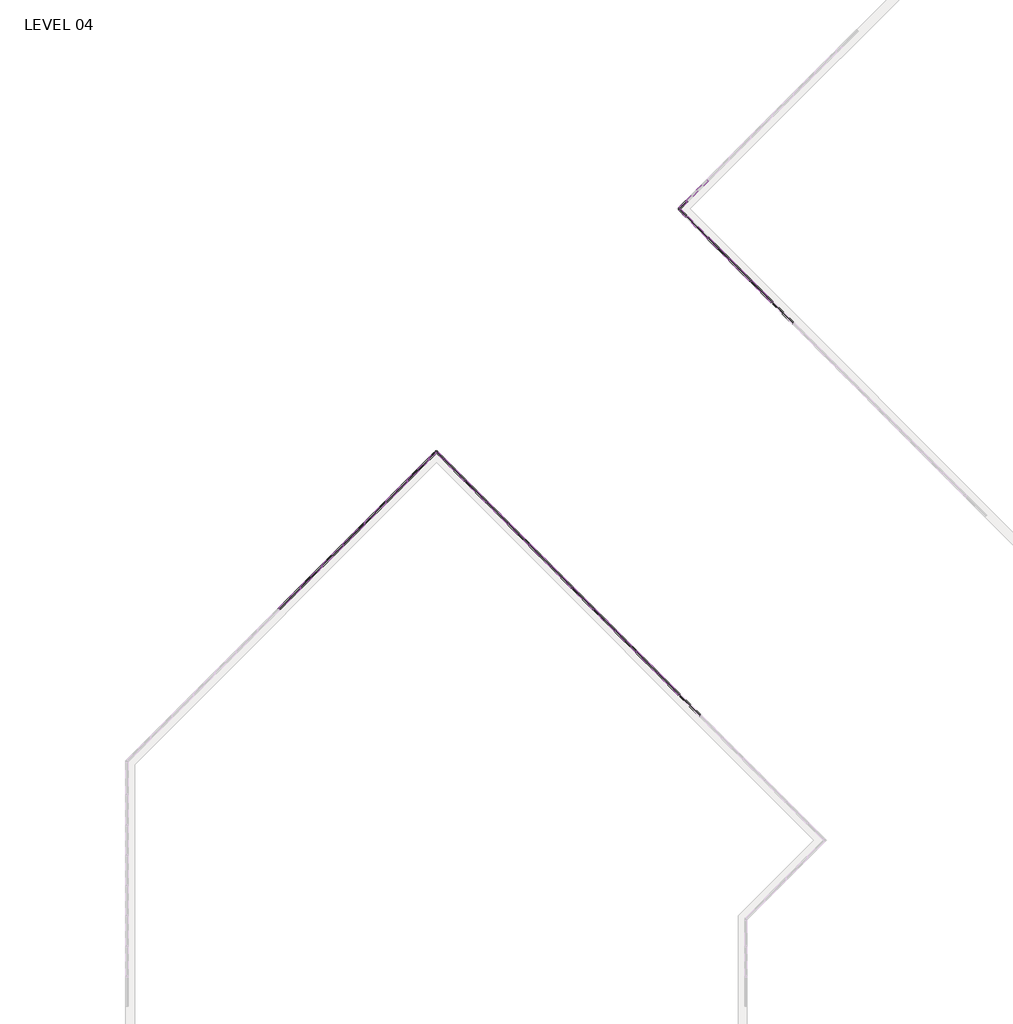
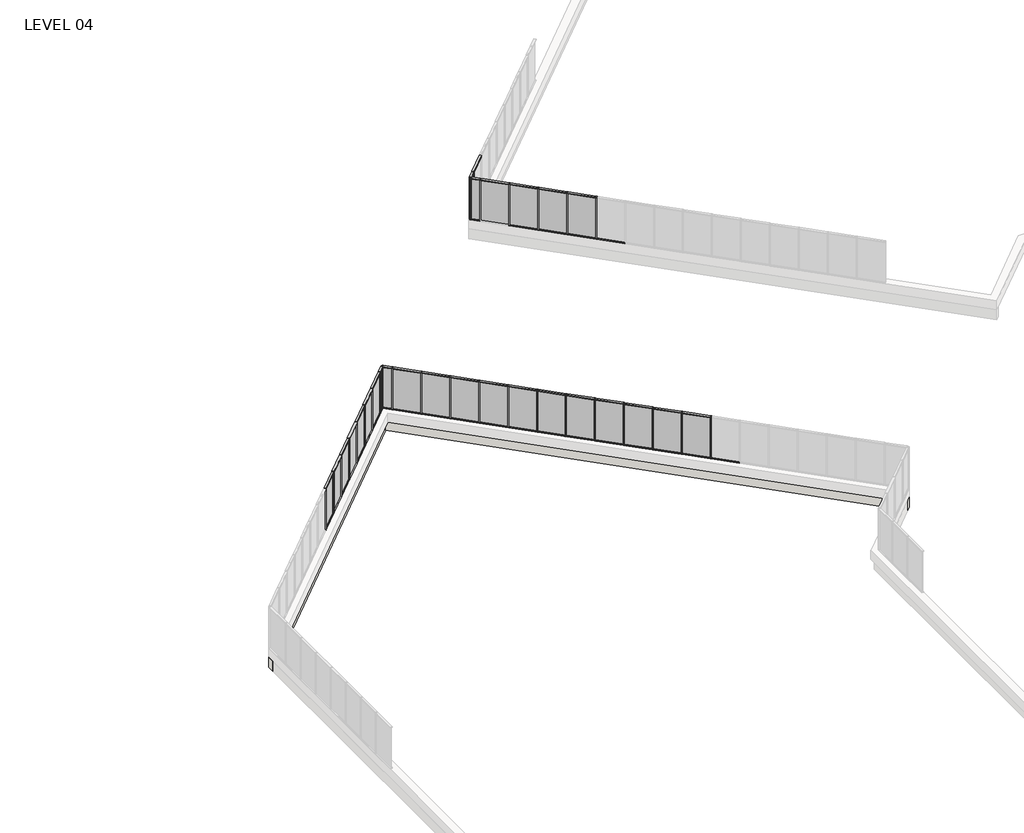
# One storey, part 6 of 17: 83 members, 26 plates, 2 walls.
"""IFC4 building model written with IfcOpenShell, lengths in millimetres."""

from ifc_helpers import new_model, si_unit, origin, place, context, project, spatial, faceted_brep, transform, mapped, element, save
from components import member_5247f267, member_e44af9ab, member_800970d4, member_ac5115e9, member_25b26a38, member_910c08c9, plate_67294edd, plate_c01932d8, plate_6d527a83, plate_88df3e37

model = new_model("IFC4")

# Units and contexts
model_context = context("Model", 3, world=origin())
ifc_project = project(units=[si_unit("LENGTHUNIT", "METRE", prefix="MILLI")], contexts=[model_context])

# Site, building, storey
site = spatial("IfcSite", under=ifc_project)
building = spatial("IfcBuilding", under=site)
storey = spatial("IfcBuildingStorey", under=building, Name="LEVEL 04", Elevation=12052.3)

# Members
placement = place(None, origin())
member_shape = member_5247f267(model_context)
element("IfcMember", 1, ObjectType="Rectangular Mullion : 2\" x 4.5\" rectangular", at=placement, inside=storey, context=model_context, shape_type="MappedRepresentation", body=[
    mapped(member_shape, transform((-3497.8097592, 103063.8559285, 12052.3), x_axis=(0.0, 0.0, -1.0), y_axis=(-0.7071067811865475, -0.7071067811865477, 0.0), z_axis=(-0.7071067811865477, 0.7071067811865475, 0.0))),
])
element("IfcMember", 2, ObjectType="Rectangular Mullion : 2\" x 4.5\" rectangular", at=placement, inside=storey, context=model_context, shape_type="MappedRepresentation", body=[
    mapped(member_shape, transform((-2420.1790246, 101986.2251939, 12052.3), x_axis=(0.0, 0.0, -1.0), y_axis=(-0.7071067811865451, -0.7071067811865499, 0.0), z_axis=(-0.7071067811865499, 0.7071067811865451, 0.0))),
])
element("IfcMember", 3, ObjectType="Rectangular Mullion : 2\" x 4.5\" rectangular", at=placement, inside=storey, context=model_context, shape_type="MappedRepresentation", body=[
    mapped(member_shape, transform((-1342.5482901, 100908.5944594, 12052.3), x_axis=(0.0, 0.0, -1.0), y_axis=(-0.7071067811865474, -0.7071067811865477, 0.0), z_axis=(-0.7071067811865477, 0.7071067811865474, 0.0))),
])
element("IfcMember", 4, ObjectType="Rectangular Mullion : 2\" x 4.5\" rectangular", at=placement, inside=storey, context=model_context, shape_type="MappedRepresentation", body=[
    mapped(member_shape, transform((-264.9175556, 99830.9637249, 12052.3), x_axis=(0.0, 0.0, -1.0), y_axis=(-0.7071067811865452, -0.7071067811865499, 0.0), z_axis=(-0.7071067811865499, 0.7071067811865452, 0.0))),
])
element("IfcMember", 5, ObjectType="Rectangular Mullion : 2\" x 4.5\" rectangular", at=placement, inside=storey, context=model_context, shape_type="MappedRepresentation", body=[
    mapped(member_shape, transform((-4575.6191663, 104942.0892742, 14643.1), x_axis=(0.0, 0.0, 1.0), y_axis=(-0.7071067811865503, 0.7071067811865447, 0.0), z_axis=(-0.7071067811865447, -0.7071067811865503, 0.0))),
])
element("IfcMember", 6, ObjectType="Rectangular Mullion : 2\" x 4.5\" rectangular", at=placement, inside=storey, context=model_context, shape_type="MappedRepresentation", body=[
    mapped(member_shape, transform((-3533.7307836, 103099.7769529, 14643.1), x_axis=(0.0, 0.0, 1.0), y_axis=(-0.7071067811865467, -0.7071067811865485, 0.0), z_axis=(0.7071067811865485, -0.7071067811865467, 0.0))),
])
element("IfcMember", 7, ObjectType="Rectangular Mullion : 2\" x 4.5\" rectangular", at=placement, inside=storey, context=model_context, shape_type="MappedRepresentation", body=[
    mapped(member_shape, transform((-2456.1000491, 102022.1462184, 14643.1), x_axis=(0.0, 0.0, 1.0), y_axis=(-0.7071067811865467, -0.7071067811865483, 0.0), z_axis=(0.7071067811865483, -0.7071067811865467, 0.0))),
])
element("IfcMember", 8, ObjectType="Rectangular Mullion : 2\" x 4.5\" rectangular", at=placement, inside=storey, context=model_context, shape_type="MappedRepresentation", body=[
    mapped(member_shape, transform((-1378.4693146, 100944.5154839, 14643.1), x_axis=(0.0, 0.0, 1.0), y_axis=(-0.707106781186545, -0.7071067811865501, 0.0), z_axis=(0.7071067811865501, -0.707106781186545, 0.0))),
])
element("IfcMember", 9, ObjectType="Rectangular Mullion : 2\" x 4.5\" rectangular", at=placement, inside=storey, context=model_context, shape_type="MappedRepresentation", body=[
    mapped(member_shape, transform((-300.8385801, 99866.8847494, 14643.1), x_axis=(0.0, 0.0, 1.0), y_axis=(-0.7071067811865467, -0.7071067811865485, 0.0), z_axis=(0.7071067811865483, -0.7071067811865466, 0.0))),
])
member_2_shape = member_e44af9ab(model_context)
element("IfcMember", 10, ObjectType="Rectangular Mullion : 2\" x 4.5\" rectangular", at=placement, inside=storey, context=model_context, shape_type="MappedRepresentation", body=[
    mapped(member_2_shape, transform((-4593.5796786, 104924.128762, 12052.3), x_axis=(-0.7071067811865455, -0.7071067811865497, 0.0), y_axis=(-0.7071067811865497, 0.7071067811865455, 0.0), z_axis=(0.0, 0.0, -1.0))),
])
element("IfcMember", 11, ObjectType="Rectangular Mullion : 2\" x 4.5\" rectangular", at=placement, inside=storey, context=model_context, shape_type="MappedRepresentation", body=[
    mapped(member_2_shape, transform((-3515.7702714, 103081.8164407, 12052.3), x_axis=(0.7071067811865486, -0.7071067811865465, 0.0), y_axis=(-0.7071067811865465, -0.7071067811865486, 0.0), z_axis=(0.0, 0.0, -1.0))),
])
element("IfcMember", 12, ObjectType="Rectangular Mullion : 2\" x 4.5\" rectangular", at=placement, inside=storey, context=model_context, shape_type="MappedRepresentation", body=[
    mapped(member_2_shape, transform((-2438.1395369, 102004.1857062, 12052.3), x_axis=(0.7071067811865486, -0.7071067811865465, 0.0), y_axis=(-0.7071067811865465, -0.7071067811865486, 0.0), z_axis=(0.0, 0.0, -1.0))),
])
element("IfcMember", 13, ObjectType="Rectangular Mullion : 2\" x 4.5\" rectangular", at=placement, inside=storey, context=model_context, shape_type="MappedRepresentation", body=[
    mapped(member_2_shape, transform((-1360.5088023, 100926.5549716, 12052.3), x_axis=(0.7071067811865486, -0.7071067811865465, 0.0), y_axis=(-0.7071067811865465, -0.7071067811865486, 0.0), z_axis=(0.0, 0.0, -1.0))),
])
element("IfcMember", 14, ObjectType="Rectangular Mullion : 2\" x 4.5\" rectangular", at=placement, inside=storey, context=model_context, shape_type="MappedRepresentation", body=[
    mapped(member_2_shape, transform((-282.8780678, 99848.9242371, 12052.3), x_axis=(0.7071067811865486, -0.7071067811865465, 0.0), y_axis=(-0.7071067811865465, -0.7071067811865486, 0.0), z_axis=(0.0, 0.0, -1.0))),
])
member_3_shape = member_800970d4(model_context)
element("IfcMember", 15, ObjectType="Rectangular Mullion : 2\" x 4.5\" rectangular", at=placement, inside=storey, context=model_context, shape_type="MappedRepresentation", body=[
    mapped(member_3_shape, transform((-4975.8311356, 104541.8773049, 12052.3), x_axis=(-0.7071067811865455, -0.7071067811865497, 0.0), y_axis=(-0.7071067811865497, 0.7071067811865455, 0.0), z_axis=(0.0, 0.0, -1.0))),
])
element("IfcMember", 16, ObjectType="Rectangular Mullion : 2\" x 4.5\" rectangular", at=placement, inside=storey, context=model_context, shape_type="MappedRepresentation", body=[
    mapped(member_3_shape, transform((-4975.8311356, 104541.8773049, 14643.1), x_axis=(-0.7071067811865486, 0.7071067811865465, 0.0), y_axis=(-0.7071067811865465, -0.7071067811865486, 0.0), z_axis=(0.0, 0.0, 1.0))),
])
member_4_shape = member_ac5115e9(model_context)
element("IfcMember", 17, ObjectType="Rectangular Mullion : 2\" x 4.5\" rectangular", at=placement, inside=storey, context=model_context, shape_type="MappedRepresentation", body=[
    mapped(member_4_shape, transform((-4939.9101111, 104577.7983294, 14643.1), x_axis=(0.0, 0.0, 1.0), y_axis=(-0.7071067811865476, 0.7071067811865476, 0.0), z_axis=(-0.7071067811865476, -0.7071067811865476, 0.0))),
])
element("IfcMember", 18, ObjectType="Rectangular Mullion : 2\" x 4.5\" rectangular", at=placement, inside=storey, context=model_context, shape_type="MappedRepresentation", body=[
    mapped(member_4_shape, transform((-4611.5401908, 104906.1682497, 12052.3), x_axis=(0.0, 0.0, -1.0), y_axis=(-0.7071067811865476, 0.7071067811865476, 0.0), z_axis=(0.7071067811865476, 0.7071067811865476, 0.0))),
])
member_5_shape = member_25b26a38(model_context)
element("IfcMember", 19, ObjectType="Rectangular Mullion : 2\" x 4.5\" rectangular", at=placement, inside=storey, context=model_context, shape_type="MappedRepresentation", body=[
    mapped(member_5_shape, transform((-4939.9101111, 104505.9562804, 12052.3), x_axis=(0.0, 0.0, -1.0), y_axis=(-0.7071067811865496, -0.7071067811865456, 0.0), z_axis=(-0.7071067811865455, 0.7071067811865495, 0.0))),
])
element("IfcMember", 20, ObjectType="Rectangular Mullion : 2\" x 4.5\" rectangular", at=placement, inside=storey, context=model_context, shape_type="MappedRepresentation", body=[
    mapped(member_5_shape, transform((-4611.3615182, 104177.4076875, 14643.1), x_axis=(0.0, 0.0, 1.0), y_axis=(-0.707106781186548, -0.707106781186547, 0.0), z_axis=(0.707106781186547, -0.707106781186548, 0.0))),
])
element("IfcMember", 21, ObjectType="Rectangular Mullion : 2\" x 4.5\" rectangular", at=placement, inside=storey, context=model_context, shape_type="MappedRepresentation", body=[
    mapped(member_shape, transform((-24063.9560929, 85453.7523477, 14643.1), x_axis=(0.0, 0.0, 1.0), y_axis=(0.707106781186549, -0.7071067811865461, 0.0), z_axis=(0.7071067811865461, 0.707106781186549, 0.0))),
])
element("IfcMember", 22, ObjectType="Rectangular Mullion : 2\" x 4.5\" rectangular", at=placement, inside=storey, context=model_context, shape_type="MappedRepresentation", body=[
    mapped(member_shape, transform((-18675.8024202, 90841.9060203, 14643.1), x_axis=(0.0, 0.0, 1.0), y_axis=(0.707106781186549, -0.7071067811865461, 0.0), z_axis=(0.7071067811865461, 0.707106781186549, 0.0))),
])
element("IfcMember", 23, ObjectType="Rectangular Mullion : 2\" x 4.5\" rectangular", at=placement, inside=storey, context=model_context, shape_type="MappedRepresentation", body=[
    mapped(member_shape, transform((-21908.6946238, 87609.0138167, 14643.1), x_axis=(0.0, 0.0, 1.0), y_axis=(0.707106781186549, -0.7071067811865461, 0.0), z_axis=(0.7071067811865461, 0.707106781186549, 0.0))),
])
element("IfcMember", 24, ObjectType="Rectangular Mullion : 2\" x 4.5\" rectangular", at=placement, inside=storey, context=model_context, shape_type="MappedRepresentation", body=[
    mapped(member_shape, transform((-22986.3253583, 86531.3830822, 14643.1), x_axis=(0.0, 0.0, 1.0), y_axis=(0.7071067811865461, -0.707106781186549, 0.0), z_axis=(0.707106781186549, 0.7071067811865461, 0.0))),
])
element("IfcMember", 25, ObjectType="Rectangular Mullion : 2\" x 4.5\" rectangular", at=placement, inside=storey, context=model_context, shape_type="MappedRepresentation", body=[
    mapped(member_shape, transform((-20831.0638893, 88686.6445513, 14643.1), x_axis=(0.0, 0.0, 1.0), y_axis=(0.7071067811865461, -0.707106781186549, 0.0), z_axis=(0.707106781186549, 0.7071067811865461, 0.0))),
])
element("IfcMember", 26, ObjectType="Rectangular Mullion : 2\" x 4.5\" rectangular", at=placement, inside=storey, context=model_context, shape_type="MappedRepresentation", body=[
    mapped(member_shape, transform((-19753.4331548, 89764.2752858, 14643.1), x_axis=(0.0, 0.0, 1.0), y_axis=(0.7071067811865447, -0.7071067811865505, 0.0), z_axis=(0.7071067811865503, 0.7071067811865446, 0.0))),
])
element("IfcMember", 27, ObjectType="Rectangular Mullion : 2\" x 4.5\" rectangular", at=placement, inside=storey, context=model_context, shape_type="MappedRepresentation", body=[
    mapped(member_shape, transform((-17598.1716857, 91919.5367548, 14643.1), x_axis=(0.0, 0.0, 1.0), y_axis=(0.7071067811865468, -0.7071067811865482, 0.0), z_axis=(0.7071067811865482, 0.7071067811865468, 0.0))),
])
element("IfcMember", 28, ObjectType="Rectangular Mullion : 2\" x 4.5\" rectangular", at=placement, inside=storey, context=model_context, shape_type="MappedRepresentation", body=[
    mapped(member_shape, transform((-15755.8593644, 90877.6483722, 14643.1), x_axis=(0.0, 0.0, 1.0), y_axis=(-0.7071067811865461, -0.707106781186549, 0.0), z_axis=(0.707106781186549, -0.7071067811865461, 0.0))),
])
element("IfcMember", 29, ObjectType="Rectangular Mullion : 2\" x 4.5\" rectangular", at=placement, inside=storey, context=model_context, shape_type="MappedRepresentation", body=[
    mapped(member_shape, transform((-14678.2286299, 89800.0176376, 14643.1), x_axis=(0.0, 0.0, 1.0), y_axis=(-0.7071067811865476, -0.7071067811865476, 0.0), z_axis=(0.7071067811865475, -0.7071067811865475, 0.0))),
])
element("IfcMember", 30, ObjectType="Rectangular Mullion : 2\" x 4.5\" rectangular", at=placement, inside=storey, context=model_context, shape_type="MappedRepresentation", body=[
    mapped(member_shape, transform((-13600.5978954, 88722.3869031, 14643.1), x_axis=(0.0, 0.0, 1.0), y_axis=(-0.7071067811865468, -0.7071067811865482, 0.0), z_axis=(0.7071067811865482, -0.7071067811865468, 0.0))),
])
element("IfcMember", 31, ObjectType="Rectangular Mullion : 2\" x 4.5\" rectangular", at=placement, inside=storey, context=model_context, shape_type="MappedRepresentation", body=[
    mapped(member_shape, transform((-11445.3364263, 86567.125434, 14643.1), x_axis=(0.0, 0.0, 1.0), y_axis=(-0.7071067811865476, -0.7071067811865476, 0.0), z_axis=(0.7071067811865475, -0.7071067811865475, 0.0))),
])
element("IfcMember", 32, ObjectType="Rectangular Mullion : 2\" x 4.5\" rectangular", at=placement, inside=storey, context=model_context, shape_type="MappedRepresentation", body=[
    mapped(member_shape, transform((-10367.7056918, 85489.4946995, 14643.1), x_axis=(0.0, 0.0, 1.0), y_axis=(-0.7071067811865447, -0.7071067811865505, 0.0), z_axis=(0.7071067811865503, -0.7071067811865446, 0.0))),
])
element("IfcMember", 33, ObjectType="Rectangular Mullion : 2\" x 4.5\" rectangular", at=placement, inside=storey, context=model_context, shape_type="MappedRepresentation", body=[
    mapped(member_shape, transform((-9290.0749572, 84411.863965, 14643.1), x_axis=(0.0, 0.0, 1.0), y_axis=(-0.7071067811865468, -0.7071067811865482, 0.0), z_axis=(0.7071067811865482, -0.7071067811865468, 0.0))),
])
element("IfcMember", 34, ObjectType="Rectangular Mullion : 2\" x 4.5\" rectangular", at=placement, inside=storey, context=model_context, shape_type="MappedRepresentation", body=[
    mapped(member_shape, transform((-8212.4442227, 83334.2332305, 14643.1), x_axis=(0.0, 0.0, 1.0), y_axis=(-0.7071067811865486, -0.7071067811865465, 0.0), z_axis=(0.7071067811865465, -0.7071067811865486, 0.0))),
])
element("IfcMember", 35, ObjectType="Rectangular Mullion : 2\" x 4.5\" rectangular", at=placement, inside=storey, context=model_context, shape_type="MappedRepresentation", body=[
    mapped(member_shape, transform((-4979.9093644, 80101.6983722, 14643.1), x_axis=(0.0, 0.0, 1.0), y_axis=(-0.7071067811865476, -0.7071067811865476, 0.0), z_axis=(0.7071067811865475, -0.7071067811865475, 0.0))),
])
element("IfcMember", 36, ObjectType="Rectangular Mullion : 2\" x 4.5\" rectangular", at=placement, inside=storey, context=model_context, shape_type="MappedRepresentation", body=[
    mapped(member_shape, transform((-12522.9671608, 87644.7561686, 14643.1), x_axis=(0.0, 0.0, 1.0), y_axis=(-0.7071067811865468, -0.7071067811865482, 0.0), z_axis=(0.7071067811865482, -0.7071067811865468, 0.0))),
])
element("IfcMember", 37, ObjectType="Rectangular Mullion : 2\" x 4.5\" rectangular", at=placement, inside=storey, context=model_context, shape_type="MappedRepresentation", body=[
    mapped(member_shape, transform((-25105.6658029, 84412.0426376, 12052.3), x_axis=(0.0, 0.0, -1.0), y_axis=(0.707106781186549, -0.7071067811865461, 0.0), z_axis=(-0.7071067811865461, -0.707106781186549, 0.0))),
])
element("IfcMember", 38, ObjectType="Rectangular Mullion : 2\" x 4.5\" rectangular", at=placement, inside=storey, context=model_context, shape_type="MappedRepresentation", body=[
    mapped(member_shape, transform((-24028.0350684, 85489.6733722, 12052.3), x_axis=(0.0, 0.0, -1.0), y_axis=(0.7071067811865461, -0.707106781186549, 0.0), z_axis=(-0.707106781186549, -0.7071067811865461, 0.0))),
])
element("IfcMember", 39, ObjectType="Rectangular Mullion : 2\" x 4.5\" rectangular", at=placement, inside=storey, context=model_context, shape_type="MappedRepresentation", body=[
    mapped(member_shape, transform((-18639.8813957, 90877.8270448, 12052.3), x_axis=(0.0, 0.0, -1.0), y_axis=(0.7071067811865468, -0.7071067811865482, 0.0), z_axis=(-0.7071067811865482, -0.7071067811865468, 0.0))),
])
element("IfcMember", 40, ObjectType="Rectangular Mullion : 2\" x 4.5\" rectangular", at=placement, inside=storey, context=model_context, shape_type="MappedRepresentation", body=[
    mapped(member_shape, transform((-21872.7735993, 87644.9348412, 12052.3), x_axis=(0.0, 0.0, -1.0), y_axis=(0.7071067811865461, -0.707106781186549, 0.0), z_axis=(-0.707106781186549, -0.7071067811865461, 0.0))),
])
element("IfcMember", 41, ObjectType="Rectangular Mullion : 2\" x 4.5\" rectangular", at=placement, inside=storey, context=model_context, shape_type="MappedRepresentation", body=[
    mapped(member_shape, transform((-22950.4043339, 86567.3041067, 12052.3), x_axis=(0.0, 0.0, -1.0), y_axis=(0.707106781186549, -0.7071067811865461, 0.0), z_axis=(-0.7071067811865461, -0.707106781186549, 0.0))),
])
element("IfcMember", 42, ObjectType="Rectangular Mullion : 2\" x 4.5\" rectangular", at=placement, inside=storey, context=model_context, shape_type="MappedRepresentation", body=[
    mapped(member_shape, transform((-20795.1428648, 88722.5655757, 12052.3), x_axis=(0.0, 0.0, -1.0), y_axis=(0.7071067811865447, -0.7071067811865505, 0.0), z_axis=(-0.7071067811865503, -0.7071067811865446, 0.0))),
])
element("IfcMember", 43, ObjectType="Rectangular Mullion : 2\" x 4.5\" rectangular", at=placement, inside=storey, context=model_context, shape_type="MappedRepresentation", body=[
    mapped(member_shape, transform((-19717.5121303, 89800.1963103, 12052.3), x_axis=(0.0, 0.0, -1.0), y_axis=(0.707106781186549, -0.7071067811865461, 0.0), z_axis=(-0.7071067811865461, -0.707106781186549, 0.0))),
])
element("IfcMember", 44, ObjectType="Rectangular Mullion : 2\" x 4.5\" rectangular", at=placement, inside=storey, context=model_context, shape_type="MappedRepresentation", body=[
    mapped(member_shape, transform((-15719.9383399, 90841.7273477, 12052.3), x_axis=(0.0, 0.0, -1.0), y_axis=(-0.7071067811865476, -0.7071067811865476, 0.0), z_axis=(-0.7071067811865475, 0.7071067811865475, 0.0))),
])
element("IfcMember", 45, ObjectType="Rectangular Mullion : 2\" x 4.5\" rectangular", at=placement, inside=storey, context=model_context, shape_type="MappedRepresentation", body=[
    mapped(member_shape, transform((-14642.3076054, 89764.0966131, 12052.3), x_axis=(0.0, 0.0, -1.0), y_axis=(-0.707106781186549, -0.7071067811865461, 0.0), z_axis=(-0.7071067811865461, 0.707106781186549, 0.0))),
])
element("IfcMember", 46, ObjectType="Rectangular Mullion : 2\" x 4.5\" rectangular", at=placement, inside=storey, context=model_context, shape_type="MappedRepresentation", body=[
    mapped(member_shape, transform((-13564.6768709, 88686.4658786, 12052.3), x_axis=(0.0, 0.0, -1.0), y_axis=(-0.7071067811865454, -0.7071067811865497, 0.0), z_axis=(-0.7071067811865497, 0.7071067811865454, 0.0))),
])
element("IfcMember", 47, ObjectType="Rectangular Mullion : 2\" x 4.5\" rectangular", at=placement, inside=storey, context=model_context, shape_type="MappedRepresentation", body=[
    mapped(member_shape, transform((-11409.4154018, 86531.2044096, 12052.3), x_axis=(0.0, 0.0, -1.0), y_axis=(-0.7071067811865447, -0.7071067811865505, 0.0), z_axis=(-0.7071067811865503, 0.7071067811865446, 0.0))),
])
element("IfcMember", 48, ObjectType="Rectangular Mullion : 2\" x 4.5\" rectangular", at=placement, inside=storey, context=model_context, shape_type="MappedRepresentation", body=[
    mapped(member_shape, transform((-10331.7846673, 85453.573675, 12052.3), x_axis=(0.0, 0.0, -1.0), y_axis=(-0.7071067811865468, -0.7071067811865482, 0.0), z_axis=(-0.7071067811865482, 0.7071067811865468, 0.0))),
])
element("IfcMember", 49, ObjectType="Rectangular Mullion : 2\" x 4.5\" rectangular", at=placement, inside=storey, context=model_context, shape_type="MappedRepresentation", body=[
    mapped(member_shape, transform((-9254.1539328, 84375.9429405, 12052.3), x_axis=(0.0, 0.0, -1.0), y_axis=(-0.7071067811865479, -0.7071067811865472, 0.0), z_axis=(-0.7071067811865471, 0.7071067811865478, 0.0))),
])
element("IfcMember", 50, ObjectType="Rectangular Mullion : 2\" x 4.5\" rectangular", at=placement, inside=storey, context=model_context, shape_type="MappedRepresentation", body=[
    mapped(member_shape, transform((-6021.6190745, 81143.4080822, 12052.3), x_axis=(0.0, 0.0, -1.0), y_axis=(-0.7071067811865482, -0.7071067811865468, 0.0), z_axis=(-0.7071067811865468, 0.7071067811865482, 0.0))),
])
element("IfcMember", 51, ObjectType="Rectangular Mullion : 2\" x 4.5\" rectangular", at=placement, inside=storey, context=model_context, shape_type="MappedRepresentation", body=[
    mapped(member_shape, transform((-4943.9883399, 80065.7773477, 12052.3), x_axis=(0.0, 0.0, -1.0), y_axis=(-0.7071067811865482, -0.7071067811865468, 0.0), z_axis=(-0.7071067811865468, 0.7071067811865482, 0.0))),
])
element("IfcMember", 52, ObjectType="Rectangular Mullion : 2\" x 4.5\" rectangular", at=placement, inside=storey, context=model_context, shape_type="MappedRepresentation", body=[
    mapped(member_shape, transform((-12487.0461363, 87608.8351441, 12052.3), x_axis=(0.0, 0.0, -1.0), y_axis=(-0.7071067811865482, -0.7071067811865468, 0.0), z_axis=(-0.7071067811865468, 0.7071067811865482, 0.0))),
])
element("IfcMember", 53, ObjectType="Rectangular Mullion : 2\" x 4.5\" rectangular", at=placement, inside=storey, context=model_context, shape_type="MappedRepresentation", body=[
    mapped(member_shape, transform((-16797.5690745, 91919.3580822, 12052.3), x_axis=(0.0, 0.0, -1.0), y_axis=(-0.7071067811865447, -0.7071067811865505, 0.0), z_axis=(-0.7071067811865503, 0.7071067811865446, 0.0))),
])
element("IfcMember", 54, ObjectType="Rectangular Mullion : 2\" x 4.5\" rectangular", at=placement, inside=storey, context=model_context, shape_type="MappedRepresentation", body=[
    mapped(member_2_shape, transform((-25123.6263152, 84394.0821254, 12052.3), x_axis=(0.7071067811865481, 0.7071067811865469, 0.0), y_axis=(0.7071067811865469, -0.7071067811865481, 0.0), z_axis=(0.0, 0.0, -1.0))),
])
element("IfcMember", 55, ObjectType="Rectangular Mullion : 2\" x 4.5\" rectangular", at=placement, inside=storey, context=model_context, shape_type="MappedRepresentation", body=[
    mapped(member_2_shape, transform((-24045.9955806, 85471.7128599, 12052.3), x_axis=(0.7071067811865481, 0.7071067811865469, 0.0), y_axis=(0.7071067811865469, -0.7071067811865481, 0.0), z_axis=(0.0, 0.0, -1.0))),
])
element("IfcMember", 56, ObjectType="Rectangular Mullion : 2\" x 4.5\" rectangular", at=placement, inside=storey, context=model_context, shape_type="MappedRepresentation", body=[
    mapped(member_2_shape, transform((-18657.841908, 90859.8665326, 12052.3), x_axis=(0.7071067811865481, 0.7071067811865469, 0.0), y_axis=(0.7071067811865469, -0.7071067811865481, 0.0), z_axis=(0.0, 0.0, -1.0))),
])
element("IfcMember", 57, ObjectType="Rectangular Mullion : 2\" x 4.5\" rectangular", at=placement, inside=storey, context=model_context, shape_type="MappedRepresentation", body=[
    mapped(member_2_shape, transform((-21890.7341116, 87626.974329, 12052.3), x_axis=(0.7071067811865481, 0.7071067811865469, 0.0), y_axis=(0.7071067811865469, -0.7071067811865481, 0.0), z_axis=(0.0, 0.0, -1.0))),
])
element("IfcMember", 58, ObjectType="Rectangular Mullion : 2\" x 4.5\" rectangular", at=placement, inside=storey, context=model_context, shape_type="MappedRepresentation", body=[
    mapped(member_2_shape, transform((-22968.3648461, 86549.3435944, 12052.3), x_axis=(0.7071067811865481, 0.7071067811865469, 0.0), y_axis=(0.7071067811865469, -0.7071067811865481, 0.0), z_axis=(0.0, 0.0, -1.0))),
])
element("IfcMember", 59, ObjectType="Rectangular Mullion : 2\" x 4.5\" rectangular", at=placement, inside=storey, context=model_context, shape_type="MappedRepresentation", body=[
    mapped(member_2_shape, transform((-20813.103377, 88704.6050635, 12052.3), x_axis=(0.7071067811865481, 0.7071067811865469, 0.0), y_axis=(0.7071067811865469, -0.7071067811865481, 0.0), z_axis=(0.0, 0.0, -1.0))),
])
element("IfcMember", 60, ObjectType="Rectangular Mullion : 2\" x 4.5\" rectangular", at=placement, inside=storey, context=model_context, shape_type="MappedRepresentation", body=[
    mapped(member_2_shape, transform((-19735.4726425, 89782.235798, 12052.3), x_axis=(0.7071067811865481, 0.7071067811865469, 0.0), y_axis=(0.7071067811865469, -0.7071067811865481, 0.0), z_axis=(0.0, 0.0, -1.0))),
])
element("IfcMember", 61, ObjectType="Rectangular Mullion : 2\" x 4.5\" rectangular", at=placement, inside=storey, context=model_context, shape_type="MappedRepresentation", body=[
    mapped(member_2_shape, transform((-17580.2111735, 91937.4972671, 12052.3), x_axis=(0.7071067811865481, 0.7071067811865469, 0.0), y_axis=(0.7071067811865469, -0.7071067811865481, 0.0), z_axis=(0.0, 0.0, -1.0))),
])
element("IfcMember", 62, ObjectType="Rectangular Mullion : 2\" x 4.5\" rectangular", at=placement, inside=storey, context=model_context, shape_type="MappedRepresentation", body=[
    mapped(member_2_shape, transform((-15737.8988522, 90859.6878599, 12052.3), x_axis=(0.707106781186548, -0.7071067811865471, 0.0), y_axis=(-0.7071067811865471, -0.707106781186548, 0.0), z_axis=(0.0, 0.0, -1.0))),
])
element("IfcMember", 63, ObjectType="Rectangular Mullion : 2\" x 4.5\" rectangular", at=placement, inside=storey, context=model_context, shape_type="MappedRepresentation", body=[
    mapped(member_2_shape, transform((-14660.2681176, 89782.0571254, 12052.3), x_axis=(0.707106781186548, -0.7071067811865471, 0.0), y_axis=(-0.7071067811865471, -0.707106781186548, 0.0), z_axis=(0.0, 0.0, -1.0))),
])
element("IfcMember", 64, ObjectType="Rectangular Mullion : 2\" x 4.5\" rectangular", at=placement, inside=storey, context=model_context, shape_type="MappedRepresentation", body=[
    mapped(member_2_shape, transform((-13582.6373831, 88704.4263909, 12052.3), x_axis=(0.707106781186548, -0.7071067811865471, 0.0), y_axis=(-0.7071067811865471, -0.707106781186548, 0.0), z_axis=(0.0, 0.0, -1.0))),
])
element("IfcMember", 65, ObjectType="Rectangular Mullion : 2\" x 4.5\" rectangular", at=placement, inside=storey, context=model_context, shape_type="MappedRepresentation", body=[
    mapped(member_2_shape, transform((-11427.3759141, 86549.1649218, 12052.3), x_axis=(0.707106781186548, -0.7071067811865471, 0.0), y_axis=(-0.7071067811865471, -0.707106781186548, 0.0), z_axis=(0.0, 0.0, -1.0))),
])
element("IfcMember", 66, ObjectType="Rectangular Mullion : 2\" x 4.5\" rectangular", at=placement, inside=storey, context=model_context, shape_type="MappedRepresentation", body=[
    mapped(member_2_shape, transform((-10349.7451795, 85471.5341873, 12052.3), x_axis=(0.707106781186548, -0.7071067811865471, 0.0), y_axis=(-0.7071067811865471, -0.707106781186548, 0.0), z_axis=(0.0, 0.0, -1.0))),
])
element("IfcMember", 67, ObjectType="Rectangular Mullion : 2\" x 4.5\" rectangular", at=placement, inside=storey, context=model_context, shape_type="MappedRepresentation", body=[
    mapped(member_2_shape, transform((-9272.114445, 84393.9034527, 12052.3), x_axis=(0.707106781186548, -0.7071067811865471, 0.0), y_axis=(-0.7071067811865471, -0.707106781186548, 0.0), z_axis=(0.0, 0.0, -1.0))),
])
element("IfcMember", 68, ObjectType="Rectangular Mullion : 2\" x 4.5\" rectangular", at=placement, inside=storey, context=model_context, shape_type="MappedRepresentation", body=[
    mapped(member_2_shape, transform((-8194.4837105, 83316.2727182, 12052.3), x_axis=(0.707106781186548, -0.7071067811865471, 0.0), y_axis=(-0.7071067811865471, -0.707106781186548, 0.0), z_axis=(0.0, 0.0, -1.0))),
])
element("IfcMember", 69, ObjectType="Rectangular Mullion : 2\" x 4.5\" rectangular", at=placement, inside=storey, context=model_context, shape_type="MappedRepresentation", body=[
    mapped(member_2_shape, transform((-6039.5795867, 81161.3685944, 12052.3), x_axis=(0.707106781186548, -0.7071067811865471, 0.0), y_axis=(-0.7071067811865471, -0.707106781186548, 0.0), z_axis=(0.0, 0.0, -1.0))),
])
element("IfcMember", 70, ObjectType="Rectangular Mullion : 2\" x 4.5\" rectangular", at=placement, inside=storey, context=model_context, shape_type="MappedRepresentation", body=[
    mapped(member_2_shape, transform((-4961.9488522, 80083.7378599, 12052.3), x_axis=(0.707106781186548, -0.7071067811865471, 0.0), y_axis=(-0.7071067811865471, -0.707106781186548, 0.0), z_axis=(0.0, 0.0, -1.0))),
])
element("IfcMember", 71, ObjectType="Rectangular Mullion : 2\" x 4.5\" rectangular", at=placement, inside=storey, context=model_context, shape_type="MappedRepresentation", body=[
    mapped(member_2_shape, transform((-12505.0066486, 87626.7956563, 12052.3), x_axis=(0.707106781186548, -0.7071067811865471, 0.0), y_axis=(-0.7071067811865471, -0.707106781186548, 0.0), z_axis=(0.0, 0.0, -1.0))),
])
element("IfcMember", 72, ObjectType="Rectangular Mullion : 2\" x 4.5\" rectangular", at=placement, inside=storey, context=model_context, shape_type="MappedRepresentation", body=[
    mapped(member_2_shape, transform((-16815.5295867, 91937.3185944, 12052.3), x_axis=(0.707106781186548, -0.7071067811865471, 0.0), y_axis=(-0.7071067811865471, -0.707106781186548, 0.0), z_axis=(0.0, 0.0, -1.0))),
])
element("IfcMember", 73, ObjectType="Rectangular Mullion : 2\" x 4.5\" rectangular", at=placement, inside=storey, context=model_context, shape_type="MappedRepresentation", body=[
    mapped(member_2_shape, transform((-7117.0316486, 82238.8206563, 12052.3), x_axis=(0.707106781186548, -0.7071067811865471, 0.0), y_axis=(-0.7071067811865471, -0.707106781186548, 0.0), z_axis=(0.0, 0.0, -1.0))),
])
element("IfcMember", 74, ObjectType="Rectangular Mullion : 2\" x 4.5\" rectangular", at=placement, inside=storey, context=model_context, shape_type="MappedRepresentation", body=[
    mapped(member_3_shape, transform((-17197.9597164, 92319.7487241, 12052.3), x_axis=(0.7071067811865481, 0.7071067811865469, 0.0), y_axis=(0.7071067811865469, -0.7071067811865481, 0.0), z_axis=(0.0, 0.0, -1.0))),
])
element("IfcMember", 75, ObjectType="Rectangular Mullion : 2\" x 4.5\" rectangular", at=placement, inside=storey, context=model_context, shape_type="MappedRepresentation", body=[
    mapped(member_3_shape, transform((-17197.9597164, 92319.7487241, 14643.1), x_axis=(-0.707106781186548, 0.7071067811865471, 0.0), y_axis=(-0.7071067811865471, -0.707106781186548, 0.0), z_axis=(0.0, 0.0, 1.0))),
])
element("IfcMember", 76, ObjectType="Rectangular Mullion : 2\" x 4.5\" rectangular", at=placement, inside=storey, context=model_context, shape_type="MappedRepresentation", body=[
    mapped(member_5_shape, transform((-16833.4900989, 91955.2791067, 14643.1), x_axis=(0.0, 0.0, 1.0), y_axis=(-0.7071067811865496, -0.7071067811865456, 0.0), z_axis=(0.7071067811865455, -0.7071067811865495, 0.0))),
])
element("IfcMember", 77, ObjectType="Rectangular Mullion : 2\" x 4.5\" rectangular", at=placement, inside=storey, context=model_context, shape_type="MappedRepresentation", body=[
    mapped(member_5_shape, transform((-17162.0386919, 92283.8276997, 12052.3), x_axis=(0.0, 0.0, -1.0), y_axis=(-0.7071067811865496, -0.7071067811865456, 0.0), z_axis=(-0.7071067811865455, 0.7071067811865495, 0.0))),
])
element("IfcMember", 78, ObjectType="Rectangular Mullion : 2\" x 4.5\" rectangular", at=placement, inside=storey, context=model_context, shape_type="MappedRepresentation", body=[
    mapped(member_4_shape, transform((-17233.8807409, 92283.8276997, 14643.1), x_axis=(0.0, 0.0, 1.0), y_axis=(0.7071067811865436, -0.7071067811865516, 0.0), z_axis=(0.7071067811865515, 0.7071067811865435, 0.0))),
])
element("IfcMember", 79, ObjectType="Rectangular Mullion : 2\" x 4.5\" rectangular", at=placement, inside=storey, context=model_context, shape_type="MappedRepresentation", body=[
    mapped(member_4_shape, transform((-17562.2506612, 91955.4577793, 12052.3), x_axis=(0.0, 0.0, -1.0), y_axis=(0.7071067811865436, -0.7071067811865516, 0.0), z_axis=(-0.7071067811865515, -0.7071067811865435, 0.0))),
])
member_6_shape = member_910c08c9(model_context)
element("IfcMember", 80, ObjectType="Rectangular Mullion : 2\" x 4.5\" rectangular", at=placement, inside=storey, context=model_context, shape_type="MappedRepresentation", body=[
    mapped(member_6_shape, transform((-6057.5400989, 81179.3291067, 14643.1), x_axis=(0.0, 0.0, 1.0), y_axis=(-0.7071067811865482, -0.7071067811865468, 0.0), z_axis=(0.7071067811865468, -0.7071067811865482, 0.0))),
])
element("IfcMember", 81, ObjectType="Rectangular Mullion : 2\" x 4.5\" rectangular", at=placement, inside=storey, context=model_context, shape_type="MappedRepresentation", body=[
    mapped(member_6_shape, transform((-7134.9921608, 82256.7811686, 14643.1), x_axis=(0.0, 0.0, 1.0), y_axis=(-0.7071067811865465, -0.7071067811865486, 0.0), z_axis=(0.7071067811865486, -0.7071067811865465, 0.0))),
])
element("IfcMember", 82, ObjectType="Rectangular Mullion : 2\" x 4.5\" rectangular", at=placement, inside=storey, context=model_context, shape_type="MappedRepresentation", body=[
    mapped(member_6_shape, transform((-8176.5231982, 83298.312206, 12052.3), x_axis=(0.0, 0.0, -1.0), y_axis=(-0.7071067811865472, -0.7071067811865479, 0.0), z_axis=(-0.7071067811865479, 0.7071067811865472, 0.0))),
])
element("IfcMember", 83, ObjectType="Rectangular Mullion : 2\" x 4.5\" rectangular", at=placement, inside=storey, context=model_context, shape_type="MappedRepresentation", body=[
    mapped(member_6_shape, transform((-7099.0711363, 82220.8601441, 12052.3), x_axis=(0.0, 0.0, -1.0), y_axis=(-0.7071067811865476, -0.7071067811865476, 0.0), z_axis=(-0.7071067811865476, 0.7071067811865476, 0.0))),
])

# Plates
plate_shape = plate_67294edd(model_context)
element("IfcPlate", 84, ObjectType="System Panel : 1/4\" Glass", at=placement, inside=storey, context=model_context, shape_type="MappedRepresentation", body=[
    mapped(plate_shape, transform((-2976.9549041, 102543.0010734, 12103.1), x_axis=(0.7071067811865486, -0.7071067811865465, 0.0), y_axis=(0.7071067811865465, 0.7071067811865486, 0.0), z_axis=(0.0, 0.0, 1.0))),
])
element("IfcPlate", 85, ObjectType="System Panel : 1/4\" Glass", at=placement, inside=storey, context=model_context, shape_type="MappedRepresentation", body=[
    mapped(plate_shape, transform((-1899.3241696, 101465.3703389, 12103.1), x_axis=(0.7071067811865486, -0.7071067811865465, 0.0), y_axis=(0.7071067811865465, 0.7071067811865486, 0.0), z_axis=(0.0, 0.0, 1.0))),
])
element("IfcPlate", 86, ObjectType="System Panel : 1/4\" Glass", at=placement, inside=storey, context=model_context, shape_type="MappedRepresentation", body=[
    mapped(plate_shape, transform((-821.6934351, 100387.7396044, 12103.1), x_axis=(0.7071067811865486, -0.7071067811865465, 0.0), y_axis=(0.7071067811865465, 0.7071067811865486, 0.0), z_axis=(0.0, 0.0, 1.0))),
])
element("IfcPlate", 87, ObjectType="System Panel : 1/4\" Glass", at=placement, inside=storey, context=model_context, shape_type="MappedRepresentation", body=[
    mapped(plate_shape, transform((-4054.5856387, 103620.631808, 12103.1), x_axis=(0.7071067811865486, -0.7071067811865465, 0.0), y_axis=(0.7071067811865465, 0.7071067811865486, 0.0), z_axis=(0.0, 0.0, 1.0))),
])
plate_2_shape = plate_c01932d8(model_context)
element("IfcPlate", 88, ObjectType="System Panel : 1/4\" Glass", at=placement, inside=storey, context=model_context, shape_type="MappedRepresentation", body=[
    mapped(plate_2_shape, transform((-4775.725151, 104741.9832896, 12103.1), x_axis=(-0.7071067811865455, -0.7071067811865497, 0.0), y_axis=(0.7071067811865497, -0.7071067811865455, 0.0), z_axis=(0.0, 0.0, 1.0))),
])
plate_3_shape = plate_6d527a83(model_context)
element("IfcPlate", 89, ObjectType="System Panel : 1/4\" Glass", at=placement, inside=storey, context=model_context, shape_type="MappedRepresentation", body=[
    mapped(plate_3_shape, transform((-4775.6358147, 104341.681984, 12103.1), x_axis=(0.7071067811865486, -0.7071067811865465, 0.0), y_axis=(0.7071067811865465, 0.7071067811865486, 0.0), z_axis=(0.0, 0.0, 1.0))),
])
element("IfcPlate", 90, ObjectType="System Panel : 1/4\" Glass", at=placement, inside=storey, context=model_context, shape_type="MappedRepresentation", body=[
    mapped(plate_shape, transform((-24584.8109479, 84932.8974927, 12103.1), x_axis=(0.7071067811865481, 0.7071067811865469, 0.0), y_axis=(-0.7071067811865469, 0.7071067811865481, 0.0), z_axis=(0.0, 0.0, 1.0))),
])
element("IfcPlate", 91, ObjectType="System Panel : 1/4\" Glass", at=placement, inside=storey, context=model_context, shape_type="MappedRepresentation", body=[
    mapped(plate_shape, transform((-23507.1802134, 86010.5282272, 12103.1), x_axis=(0.7071067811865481, 0.7071067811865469, 0.0), y_axis=(-0.7071067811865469, 0.7071067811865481, 0.0), z_axis=(0.0, 0.0, 1.0))),
])
element("IfcPlate", 92, ObjectType="System Panel : 1/4\" Glass", at=placement, inside=storey, context=model_context, shape_type="MappedRepresentation", body=[
    mapped(plate_shape, transform((-18119.0265407, 91398.6818998, 12103.1), x_axis=(0.7071067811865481, 0.7071067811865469, 0.0), y_axis=(-0.7071067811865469, 0.7071067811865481, 0.0), z_axis=(0.0, 0.0, 1.0))),
])
element("IfcPlate", 93, ObjectType="System Panel : 1/4\" Glass", at=placement, inside=storey, context=model_context, shape_type="MappedRepresentation", body=[
    mapped(plate_shape, transform((-21351.9187443, 88165.7896962, 12103.1), x_axis=(0.7071067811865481, 0.7071067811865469, 0.0), y_axis=(-0.7071067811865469, 0.7071067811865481, 0.0), z_axis=(0.0, 0.0, 1.0))),
])
element("IfcPlate", 94, ObjectType="System Panel : 1/4\" Glass", at=placement, inside=storey, context=model_context, shape_type="MappedRepresentation", body=[
    mapped(plate_shape, transform((-22429.5494788, 87088.1589617, 12103.1), x_axis=(0.7071067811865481, 0.7071067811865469, 0.0), y_axis=(-0.7071067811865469, 0.7071067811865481, 0.0), z_axis=(0.0, 0.0, 1.0))),
])
element("IfcPlate", 95, ObjectType="System Panel : 1/4\" Glass", at=placement, inside=storey, context=model_context, shape_type="MappedRepresentation", body=[
    mapped(plate_shape, transform((-20274.2880098, 89243.4204308, 12103.1), x_axis=(0.7071067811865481, 0.7071067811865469, 0.0), y_axis=(-0.7071067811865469, 0.7071067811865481, 0.0), z_axis=(0.0, 0.0, 1.0))),
])
element("IfcPlate", 96, ObjectType="System Panel : 1/4\" Glass", at=placement, inside=storey, context=model_context, shape_type="MappedRepresentation", body=[
    mapped(plate_shape, transform((-19196.6572753, 90321.0511653, 12103.1), x_axis=(0.7071067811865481, 0.7071067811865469, 0.0), y_axis=(-0.7071067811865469, 0.7071067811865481, 0.0), z_axis=(0.0, 0.0, 1.0))),
])
element("IfcPlate", 97, ObjectType="System Panel : 1/4\" Glass", at=placement, inside=storey, context=model_context, shape_type="MappedRepresentation", body=[
    mapped(plate_shape, transform((-15199.0834849, 90320.8724927, 12103.1), x_axis=(0.707106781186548, -0.7071067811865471, 0.0), y_axis=(0.7071067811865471, 0.707106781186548, 0.0), z_axis=(0.0, 0.0, 1.0))),
])
element("IfcPlate", 98, ObjectType="System Panel : 1/4\" Glass", at=placement, inside=storey, context=model_context, shape_type="MappedRepresentation", body=[
    mapped(plate_shape, transform((-14121.4527504, 89243.2417581, 12103.1), x_axis=(0.707106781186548, -0.7071067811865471, 0.0), y_axis=(0.7071067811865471, 0.707106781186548, 0.0), z_axis=(0.0, 0.0, 1.0))),
])
element("IfcPlate", 99, ObjectType="System Panel : 1/4\" Glass", at=placement, inside=storey, context=model_context, shape_type="MappedRepresentation", body=[
    mapped(plate_shape, transform((-13043.8220159, 88165.6110236, 12103.1), x_axis=(0.707106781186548, -0.7071067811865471, 0.0), y_axis=(0.7071067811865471, 0.707106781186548, 0.0), z_axis=(0.0, 0.0, 1.0))),
])
element("IfcPlate", 100, ObjectType="System Panel : 1/4\" Glass", at=placement, inside=storey, context=model_context, shape_type="MappedRepresentation", body=[
    mapped(plate_shape, transform((-10888.5605468, 86010.3495545, 12103.1), x_axis=(0.707106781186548, -0.7071067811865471, 0.0), y_axis=(0.7071067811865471, 0.707106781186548, 0.0), z_axis=(0.0, 0.0, 1.0))),
])
element("IfcPlate", 101, ObjectType="System Panel : 1/4\" Glass", at=placement, inside=storey, context=model_context, shape_type="MappedRepresentation", body=[
    mapped(plate_shape, transform((-9810.9298123, 84932.71882, 12103.1), x_axis=(0.707106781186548, -0.7071067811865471, 0.0), y_axis=(0.7071067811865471, 0.707106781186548, 0.0), z_axis=(0.0, 0.0, 1.0))),
])
element("IfcPlate", 102, ObjectType="System Panel : 1/4\" Glass", at=placement, inside=storey, context=model_context, shape_type="MappedRepresentation", body=[
    mapped(plate_shape, transform((-8733.2990777, 83855.0880855, 12103.1), x_axis=(0.707106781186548, -0.7071067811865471, 0.0), y_axis=(0.7071067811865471, 0.707106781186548, 0.0), z_axis=(0.0, 0.0, 1.0))),
])
element("IfcPlate", 103, ObjectType="System Panel : 1/4\" Glass", at=placement, inside=storey, context=model_context, shape_type="MappedRepresentation", body=[
    mapped(plate_shape, transform((-5500.7642194, 80622.5532272, 12103.1), x_axis=(0.707106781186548, -0.7071067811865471, 0.0), y_axis=(0.7071067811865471, 0.707106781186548, 0.0), z_axis=(0.0, 0.0, 1.0))),
])
element("IfcPlate", 104, ObjectType="System Panel : 1/4\" Glass", at=placement, inside=storey, context=model_context, shape_type="MappedRepresentation", body=[
    mapped(plate_shape, transform((-11966.1912813, 87087.9802891, 12103.1), x_axis=(0.707106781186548, -0.7071067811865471, 0.0), y_axis=(0.7071067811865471, 0.707106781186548, 0.0), z_axis=(0.0, 0.0, 1.0))),
])
element("IfcPlate", 105, ObjectType="System Panel : 1/4\" Glass", at=placement, inside=storey, context=model_context, shape_type="MappedRepresentation", body=[
    mapped(plate_shape, transform((-16276.7142194, 91398.5032272, 12103.1), x_axis=(0.707106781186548, -0.7071067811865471, 0.0), y_axis=(0.7071067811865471, 0.707106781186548, 0.0), z_axis=(0.0, 0.0, 1.0))),
])
element("IfcPlate", 106, ObjectType="System Panel : 1/4\" Glass", at=placement, inside=storey, context=model_context, shape_type="MappedRepresentation", body=[
    mapped(plate_3_shape, transform((-16997.7643954, 92119.5534032, 12103.1), x_axis=(0.707106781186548, -0.7071067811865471, 0.0), y_axis=(0.7071067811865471, 0.707106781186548, 0.0), z_axis=(0.0, 0.0, 1.0))),
])
plate_4_shape = plate_88df3e37(model_context)
element("IfcPlate", 107, ObjectType="System Panel : 1/4\" Glass", at=placement, inside=storey, context=model_context, shape_type="MappedRepresentation", body=[
    mapped(plate_4_shape, transform((-7655.7576795, 82777.5466873, 12103.1), x_axis=(0.707106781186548, -0.7071067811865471, 0.0), y_axis=(0.7071067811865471, 0.707106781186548, 0.0), z_axis=(0.0, 0.0, 1.0))),
])
element("IfcPlate", 108, ObjectType="System Panel : 1/4\" Glass", at=placement, inside=storey, context=model_context, shape_type="MappedRepresentation", body=[
    mapped(plate_4_shape, transform((-6578.3056176, 81700.0946254, 12103.1), x_axis=(0.707106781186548, -0.7071067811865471, 0.0), y_axis=(0.7071067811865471, 0.707106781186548, 0.0), z_axis=(0.0, 0.0, 1.0))),
])
element("IfcPlate", 109, ObjectType="System Panel : 1/4\" Glass", at=placement, inside=storey, context=model_context, shape_type="MappedRepresentation", body=[
    mapped(plate_2_shape, transform((-17398.0657011, 92119.6427395, 12103.1), x_axis=(0.7071067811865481, 0.7071067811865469, 0.0), y_axis=(-0.7071067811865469, 0.7071067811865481, 0.0), z_axis=(0.0, 0.0, 1.0))),
])

# Walls
element("IfcWall", 110, ObjectType="01-CONCRETE-12", at=placement, inside=storey, context=model_context, shape_type="Brep", body=[
    faceted_brep([(2444.6437243, 72757.9675885, 10871.2), (-17197.9597164, 92400.5710292, 10871.2), (-17197.9597164, 92400.5710292, 11493.5), (2444.6437243, 72757.9675885, 11493.5), (2229.1175774, 72542.4414416, 10871.2), (2229.1175774, 72542.4414416, 11493.5), (2013.5914305, 72757.9675885, 11493.5), (-17197.9597164, 91969.5187354, 11493.5), (-17413.4858633, 92185.0448823, 11493.5), (-17413.4858633, 92185.0448823, 10871.2), (-17197.9597164, 91969.5187354, 10871.2), (2013.5914305, 72757.9675885, 10871.2)], [[[0, 1, 2, 3]], [[4, 5, 6, 7, 8, 9, 10, 11]], [[1, 0, 4, 11, 10, 9]], [[3, 2, 8, 7, 6, 5]], [[0, 3, 5, 4]], [[2, 1, 9, 8]]]),
])
element("IfcWall", 111, ObjectType="01-CONCRETE-12", at=placement, inside=storey, context=model_context, shape_type="Brep", body=[
    faceted_brep([(-17413.4858633, 92185.0448823, 10871.2), (-32841.1847164, 76757.3460292, 10871.2), (-32841.1847164, 76757.3460292, 11493.5), (-17413.4858633, 92185.0448823, 11493.5), (-17197.9597164, 91969.5187354, 10871.2), (-17197.9597164, 91969.5187354, 11493.5), (-32536.3847164, 76631.0937354, 11493.5), (-32841.1847164, 76326.2937354, 11493.5), (-32841.1847164, 76326.2937354, 10871.2), (-32536.3847164, 76631.0937354, 10871.2)], [[[0, 1, 2, 3]], [[4, 5, 6, 7, 8, 9]], [[1, 0, 4, 9, 8]], [[3, 2, 7, 6, 5]], [[2, 1, 8, 7]], [[0, 3, 5, 4]]]),
])

save(model, "model.ifc")
